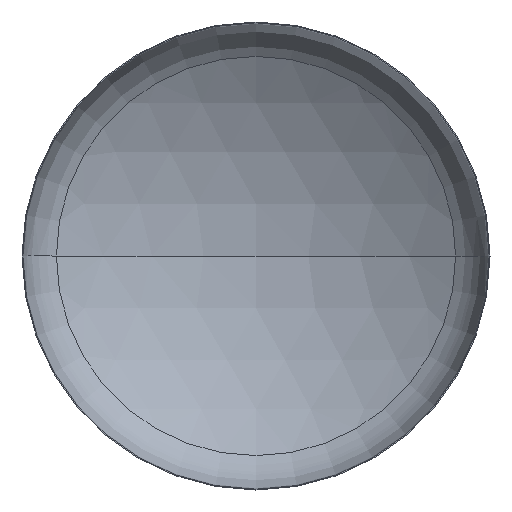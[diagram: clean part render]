
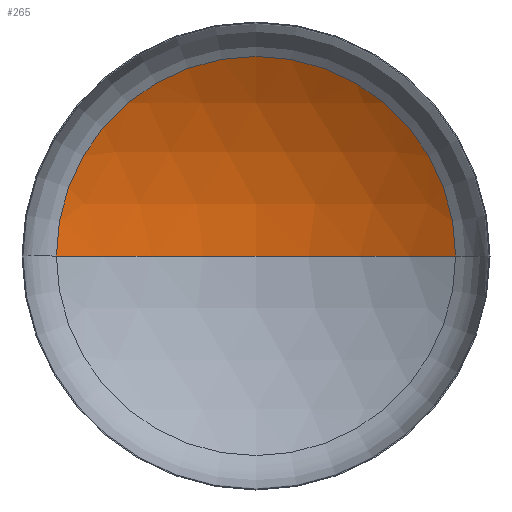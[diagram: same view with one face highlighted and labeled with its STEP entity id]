
A CAD part, front view. The second image highlights one B-rep face of the part: STEP entity #265.
In plain terms, the highlighted spherical face has radius 2240 mm.
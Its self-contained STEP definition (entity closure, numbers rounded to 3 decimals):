
#2 = AXIS2_PLACEMENT_3D ( 'NONE', #287, #107, #324 ) ;
#6 = AXIS2_PLACEMENT_3D ( 'NONE', #180, #402, #94 ) ;
#8 = AXIS2_PLACEMENT_3D ( 'NONE', #129, #130, #55 ) ;
#18 = DIRECTION ( 'NONE',  ( -1., 0., 0. ) ) ;
#28 = EDGE_LOOP ( 'NONE', ( #210, #193, #101 ) ) ;
#29 = AXIS2_PLACEMENT_3D ( 'NONE', #123, #181, #18 ) ;
#55 = DIRECTION ( 'NONE',  ( -1., 0., 0. ) ) ;
#70 = VERTEX_POINT ( 'NONE', #353 ) ;
#87 = VERTEX_POINT ( 'NONE', #381 ) ;
#94 = DIRECTION ( 'NONE',  ( 1., 0., 0. ) ) ;
#101 = ORIENTED_EDGE ( 'NONE', *, *, #375, .T. ) ;
#107 = DIRECTION ( 'NONE',  ( 0., -1., 0. ) ) ;
#108 = FACE_OUTER_BOUND ( 'NONE', #28, .T. ) ;
#123 = CARTESIAN_POINT ( 'NONE',  ( 0., -1511.298, 0. ) ) ;
#129 = CARTESIAN_POINT ( 'NONE',  ( 0., -1511.298, 0. ) ) ;
#130 = DIRECTION ( 'NONE',  ( 0., 0., -1. ) ) ;
#152 = CIRCLE ( 'NONE', #2, 1194.254 ) ;
#161 = CIRCLE ( 'NONE', #8, 2240. ) ;
#180 = CARTESIAN_POINT ( 'NONE',  ( 0., -1511.298, 0. ) ) ;
#181 = DIRECTION ( 'NONE',  ( 0., 0., -1. ) ) ;
#193 = ORIENTED_EDGE ( 'NONE', *, *, #344, .T. ) ;
#197 = VERTEX_POINT ( 'NONE', #201 ) ;
#201 = CARTESIAN_POINT ( 'NONE',  ( 0., 728.702, 0. ) ) ;
#210 = ORIENTED_EDGE ( 'NONE', *, *, #347, .F. ) ;
#264 = SPHERICAL_SURFACE ( 'NONE', #29, 2240. ) ;
#265 = ADVANCED_FACE ( 'NONE', ( #108 ), #264, .F. ) ;
#287 = CARTESIAN_POINT ( 'NONE',  ( 0., 383.789, 0. ) ) ;
#324 = DIRECTION ( 'NONE',  ( 1., 0., 0. ) ) ;
#344 = EDGE_CURVE ( 'NONE', #197, #70, #161, .T. ) ;
#347 = EDGE_CURVE ( 'NONE', #197, #87, #379, .T. ) ;
#353 = CARTESIAN_POINT ( 'NONE',  ( 1194.254, 383.789, 0. ) ) ;
#375 = EDGE_CURVE ( 'NONE', #70, #87, #152, .T. ) ;
#379 = CIRCLE ( 'NONE', #6, 2240. ) ;
#381 = CARTESIAN_POINT ( 'NONE',  ( -1194.254, 383.789, 0. ) ) ;
#402 = DIRECTION ( 'NONE',  ( 0., 0., 1. ) ) ;
